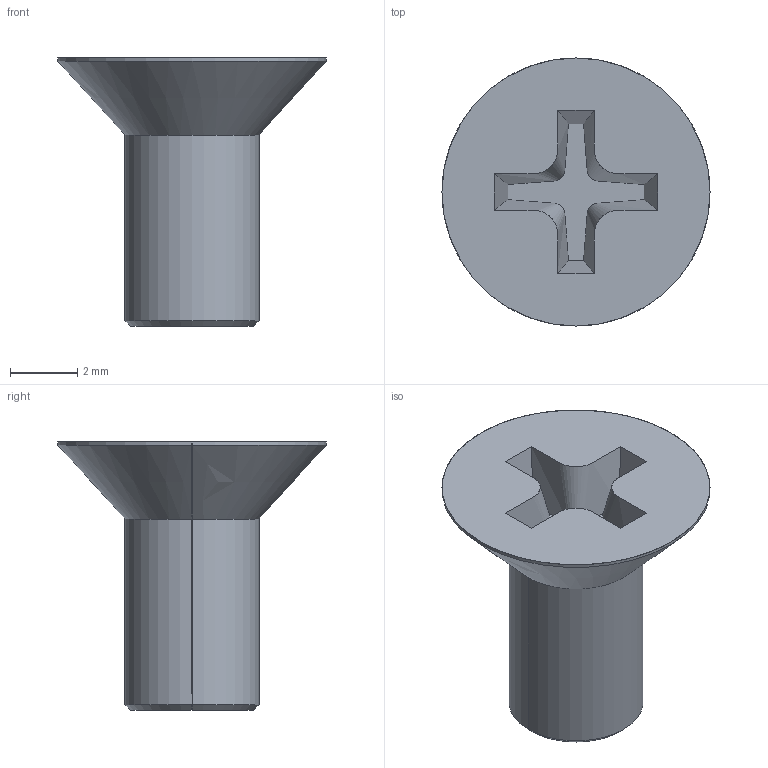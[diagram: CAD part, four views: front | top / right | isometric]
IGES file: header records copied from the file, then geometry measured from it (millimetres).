
Start section: SolidWorks IGES file using analytic representation for surfaces
Bounding box: 8 x 8 x 8 mm (x, y, z)
Surface area: 216.8 mm2 (no closed solid volume)
Topology: 0 solids, 0 shells, 19 faces, 196 edges, 196 vertices
Faces by surface type: bspline 11, revolution 8
